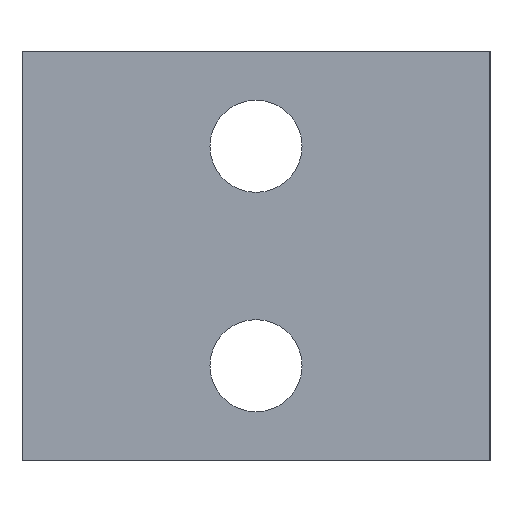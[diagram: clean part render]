
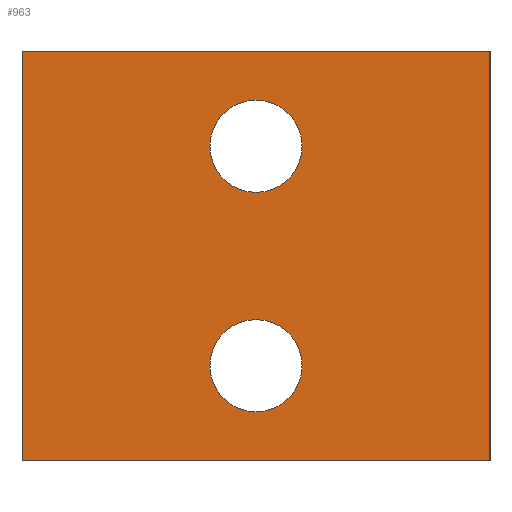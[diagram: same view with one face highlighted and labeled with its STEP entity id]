
A CAD part, left-side view. The second image highlights one B-rep face of the part: STEP entity #963.
In plain terms, the highlighted planar face has unit normal (-1, 0, 0).
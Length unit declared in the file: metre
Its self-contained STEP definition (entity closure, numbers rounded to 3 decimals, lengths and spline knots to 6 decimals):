
#24=LINE('',#1335,#132);
#67=LINE('',#1437,#175);
#112=LINE('',#1528,#220);
#113=LINE('',#1534,#221);
#132=VECTOR('',#1085,1.);
#175=VECTOR('',#1148,1.);
#220=VECTOR('',#1235,1.);
#221=VECTOR('',#1242,1.);
#393=ORIENTED_EDGE('',*,*,#591,.F.);
#394=ORIENTED_EDGE('',*,*,#592,.F.);
#395=ORIENTED_EDGE('',*,*,#590,.T.);
#396=ORIENTED_EDGE('',*,*,#496,.T.);
#397=ORIENTED_EDGE('',*,*,#593,.F.);
#398=ORIENTED_EDGE('',*,*,#545,.F.);
#496=EDGE_CURVE('',#620,#622,#24,.T.);
#545=EDGE_CURVE('',#671,#672,#67,.T.);
#590=EDGE_CURVE('',#671,#620,#112,.T.);
#591=EDGE_CURVE('',#697,#697,#715,.T.);
#592=EDGE_CURVE('',#698,#698,#716,.T.);
#593=EDGE_CURVE('',#672,#622,#113,.T.);
#620=VERTEX_POINT('',#1330);
#622=VERTEX_POINT('',#1334);
#671=VERTEX_POINT('',#1436);
#672=VERTEX_POINT('',#1438);
#697=VERTEX_POINT('',#1531);
#698=VERTEX_POINT('',#1533);
#715=CIRCLE('',#1038,0.00315);
#716=CIRCLE('',#1039,0.00315);
#767=EDGE_LOOP('',(#393));
#768=EDGE_LOOP('',(#394));
#769=EDGE_LOOP('',(#395,#396,#397,#398));
#853=FACE_BOUND('',#767,.T.);
#854=FACE_BOUND('',#768,.T.);
#855=FACE_BOUND('',#769,.T.);
#920=PLANE('',#1037);
#963=ADVANCED_FACE('',(#853,#854,#855),#920,.F.);
#1037=AXIS2_PLACEMENT_3D('',#1529,#1236,#1237);
#1038=AXIS2_PLACEMENT_3D('',#1530,#1238,#1239);
#1039=AXIS2_PLACEMENT_3D('',#1532,#1240,#1241);
#1085=DIRECTION('',(0.,0.,-1.));
#1148=DIRECTION('',(0.,0.,-1.));
#1235=DIRECTION('',(0.,1.,0.));
#1236=DIRECTION('',(1.,0.,0.));
#1237=DIRECTION('',(0.,0.,-1.));
#1238=DIRECTION('',(-1.,0.,0.));
#1239=DIRECTION('',(0.,0.,1.));
#1240=DIRECTION('',(-1.,0.,0.));
#1241=DIRECTION('',(0.,0.,1.));
#1242=DIRECTION('',(0.,1.,0.));
#1330=CARTESIAN_POINT('',(-0.05109,0.033224,0.021058));
#1334=CARTESIAN_POINT('',(-0.05109,0.033224,-0.006942));
#1335=CARTESIAN_POINT('',(-0.05109,0.033224,0.007058));
#1436=CARTESIAN_POINT('',(-0.05109,0.001224,0.021058));
#1437=CARTESIAN_POINT('',(-0.05109,0.001224,0.007058));
#1438=CARTESIAN_POINT('',(-0.05109,0.001224,-0.006942));
#1528=CARTESIAN_POINT('',(-0.05109,-0.018776,0.021058));
#1529=CARTESIAN_POINT('',(-0.05109,-0.018776,0.007058));
#1530=CARTESIAN_POINT('',(-0.05109,0.017224,-0.000442));
#1531=CARTESIAN_POINT('',(-0.05109,0.017224,0.002708));
#1532=CARTESIAN_POINT('',(-0.05109,0.017224,0.014558));
#1533=CARTESIAN_POINT('',(-0.05109,0.017224,0.017708));
#1534=CARTESIAN_POINT('',(-0.05109,-0.018776,-0.006942));
